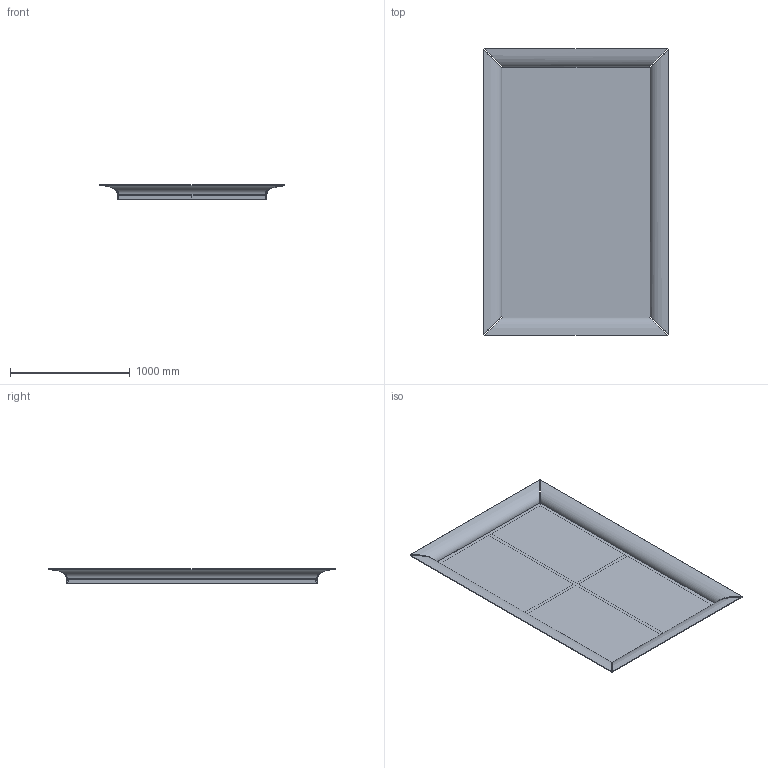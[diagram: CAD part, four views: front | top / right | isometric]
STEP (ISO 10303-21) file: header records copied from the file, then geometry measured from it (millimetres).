
FILE_DESCRIPTION(/* description */ (''),/* implementation_level */ '2;1');
FILE_NAME(/* name */ '645S - Caadre - 155x240',/* time_stamp */ '2012-06-15T12:18:49+02:00',/* author */ (''),/* organization */ (''),/* preprocessor_version */ 'ST-DEVELOPER v10',/* originating_system */ '',/* authorisation */ '');
FILE_SCHEMA (('CONFIG_CONTROL_DESIGN'));
Length unit declared in the file: centimetre
Products named in the file (1): 1
Bounding box: 1544 x 2394 x 119 mm (x, y, z)
Volume: 31106955.2 mm3; surface area: 9606561.4 mm2
Topology: 6 solids, 6 shells, 75 faces, 179 edges, 108 vertices
Faces by surface type: bspline 47, plane 28
Entity records: 2906 total; most frequent: CARTESIAN_POINT 1624, ORIENTED_EDGE 358, EDGE_CURVE 179, B_SPLINE_CURVE_WITH_KNOTS 179, VERTEX_POINT 108, ADVANCED_FACE 75, FACE_OUTER_BOUND 75, EDGE_LOOP 75
